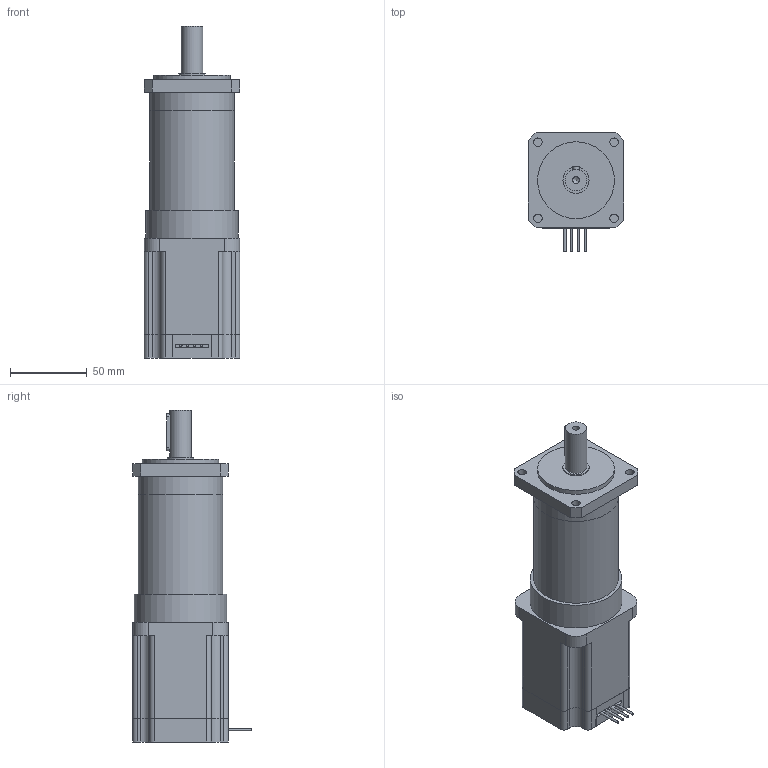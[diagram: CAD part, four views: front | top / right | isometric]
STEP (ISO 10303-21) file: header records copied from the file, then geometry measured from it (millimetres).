
FILE_DESCRIPTION(/* description */ (''),/* implementation_level */ '2;1');
FILE_NAME(/* name */ '62PG025-D44-0478.stp',/* time_stamp */ '2018-08-27T09:37:36+08:00',/* author */ (''),/* organization */ (''),/* preprocessor_version */ 'ST-DEVELOPER v11',/* originating_system */ 'SIEMENS UGS NX 6.0',/* authorisation */ '');
FILE_SCHEMA (('CONFIG_CONTROL_DESIGN'));
Length unit declared in the file: millimetre
Products named in the file (1): 62PG015-D42-0478
Bounding box: 62 x 77 x 216 mm (x, y, z)
Volume: 540997.3 mm3; surface area: 61161.5 mm2
Topology: 3 solids, 3 shells, 110 faces, 281 edges, 189 vertices
Faces by surface type: plane 64, cylinder 45, cone 1
Full cylindrical faces by diameter (mm): 1.5 x4, 4.5 x1, 5.5 x4, 14 x1, 17 x1, 50 x1, 55 x2, 60 x1
Entity records: 3368 total; most frequent: CARTESIAN_POINT 612, DIRECTION 566, ORIENTED_EDGE 516, EDGE_CURVE 258, AXIS2_PLACEMENT_3D 199, VERTEX_POINT 183, LINE 168, VECTOR 168
